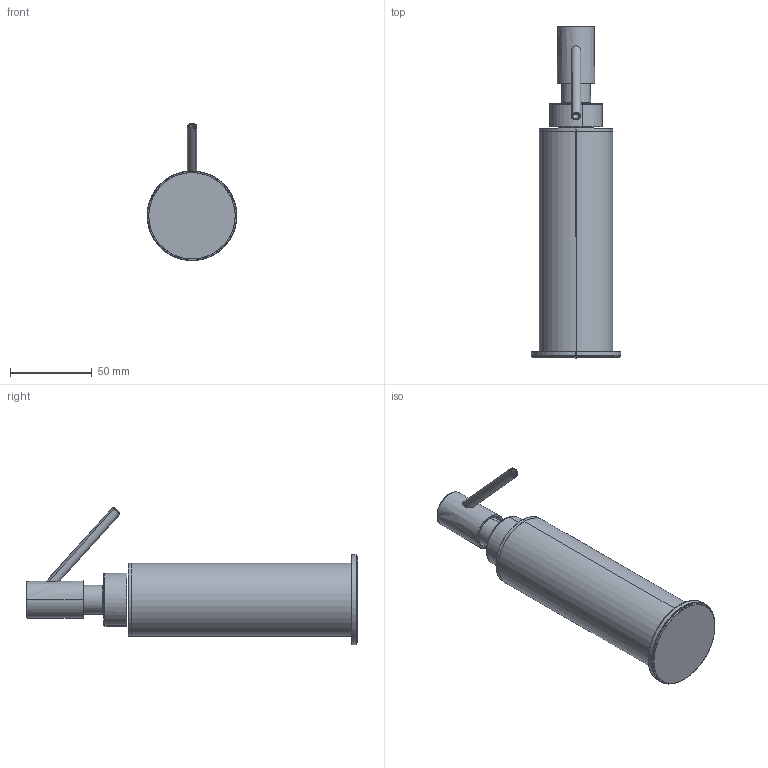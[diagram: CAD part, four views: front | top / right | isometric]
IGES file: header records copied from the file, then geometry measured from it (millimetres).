
Start section: SolidWorks IGES file using analytic representation for surfaces
Global section: file name: G:\Projects\New project\For Marketing\IGS\IGS\2015-11-27\367831002VW.IGS; native system: SolidWorks 2010; preprocessor: SolidWorks 2010; author: linda; date: 151130.140121; units: millimetre
Bounding box: 55 x 203.6 x 84.12 mm (x, y, z)
Surface area: 37291.8 mm2 (no closed solid volume)
Topology: 0 solids, 0 shells, 56 faces, 1192 edges, 1191 vertices
Faces by surface type: revolution 29, bspline 27
